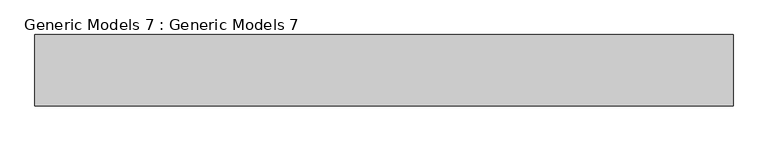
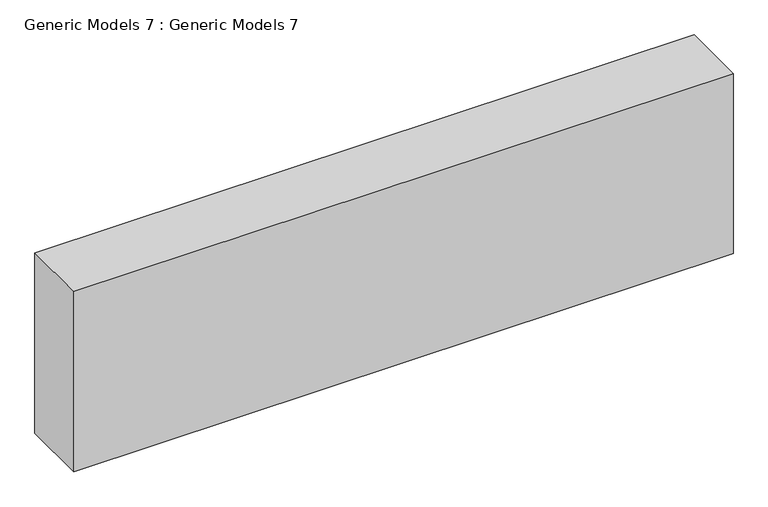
"""IFC4 building model written with IfcOpenShell, lengths in millimetres: proxy geometry, Generic Models 7 : Generic Models 7."""

import ifcopenshell
import ifcopenshell.guid

model = None  # the IFC model being written
_history = None  # IfcOwnerHistory: only IFC2X3 demands one
_inside = {}  # id of a spatial element -> (the spatial element, [elements in it])
_under = {}  # id of a project, library or spatial element -> (it, [spatial elements below it])
_declared = {}  # id of a project -> (the project, [libraries it declares])
_typed = {}  # id of a type object -> (the type object, [elements of that type])
_made_of = {}  # id of a material, layer set ... -> (it, [elements and type objects made of it])


def new_model(schema):
    """Start an empty IFC model of exactly this schema.

    Asked for "IFC4X3", IfcOpenShell would pick the latest addendum, in which some entities
    have other attributes; the version numbers below select the first issue.
    IFC2X3 requires an IfcOwnerHistory on every rooted entity: one is made here for all.
    """
    global model, _history
    if schema == "IFC4X3":
        model = ifcopenshell.file(schema_version=(4, 3, 0, 0))
    else:
        model = ifcopenshell.file(schema=schema)
    _inside.clear()
    _under.clear()
    _declared.clear()
    _typed.clear()
    _made_of.clear()
    _history = None
    if model.schema == "IFC2X3":
        org = make("IfcOrganization", Name="unknown")
        user = make(
            "IfcPersonAndOrganization",
            ThePerson=make("IfcPerson", FamilyName="unknown"),
            TheOrganization=org,
        )
        app = make(
            "IfcApplication",
            ApplicationDeveloper=org,
            Version="unknown",
            ApplicationFullName="unknown",
            ApplicationIdentifier="unknown",
        )
        _history = make(
            "IfcOwnerHistory",
            OwningUser=user,
            OwningApplication=app,
            ChangeAction="ADDED",
            CreationDate=0,
        )
    return model


def make(cls, **values):
    """One entity of the class cls with the attributes given. An attribute that is None is left unset."""
    return model.create_entity(
        cls, **{name: value for name, value in values.items() if value is not None}
    )


def rooted(cls, **values):
    """An entity with a GlobalId (a new one), such as an element, a storey or a relation."""
    return make(cls, GlobalId=ifcopenshell.guid.new(), OwnerHistory=_history, **values)


def si_unit(unit_type, name, prefix=None):
    """IfcSIUnit, for example si_unit("LENGTHUNIT", "METRE", prefix="MILLI")."""
    return make("IfcSIUnit", UnitType=unit_type, Prefix=prefix, Name=name)


def assignment(units):
    """IfcUnitAssignment: the units of a project."""
    return None if units is None else make("IfcUnitAssignment", Units=units)


def point(xyz):
    """IfcCartesianPoint."""
    return None if xyz is None else make("IfcCartesianPoint", Coordinates=xyz)


def direction(xyz):
    """IfcDirection."""
    return None if xyz is None else make("IfcDirection", DirectionRatios=xyz)


def frame(location, z_axis=None, x_axis=None):
    """IfcAxis2Placement3D, a coordinate frame: its origin and axes. An axis left out is left unset."""
    return make(
        "IfcAxis2Placement3D",
        Location=point(location),
        Axis=direction(z_axis),
        RefDirection=direction(x_axis),
    )


def origin():
    """The frame at (0, 0, 0) with its axes left unset."""
    return frame((0.0, 0.0, 0.0))


def place(relative_to, where):
    """IfcLocalPlacement: puts the frame where relative to a parent placement (None: the world)."""
    return make(
        "IfcLocalPlacement", PlacementRelTo=relative_to, RelativePlacement=where
    )


def context(
    kind, dimensions, precision=None, world=None, true_north=None, identifier=None
):
    """IfcGeometricRepresentationContext, for example the 3D "Model" context."""
    return make(
        "IfcGeometricRepresentationContext",
        ContextIdentifier=identifier,
        ContextType=kind,
        CoordinateSpaceDimension=dimensions,
        Precision=precision,
        WorldCoordinateSystem=world,
        TrueNorth=true_north,
    )


def project(units=None, contexts=None):
    """IfcProject with its units and contexts."""
    return rooted(
        "IfcProject",
        Name="project",
        RepresentationContexts=contexts,
        UnitsInContext=assignment(units),
    )


def spatial(cls, under=None, at=None, **own):
    """A site, building, storey or space (cls), placed at a placement, below another one or the project."""
    s = rooted(cls, ObjectPlacement=at, **own)
    if under is not None:
        _under.setdefault(under.id(), (under, []))[1].append(s)
    return s


def polyline(points):
    """IfcPolyline through the points."""
    return make("IfcPolyline", Points=[point(p) for p in points])


def outline(outer, holes=None, kind="AREA"):
    """IfcArbitraryClosedProfileDef: a profile drawn as a closed curve; with holes, ...WithVoids."""
    if holes is None:
        return make("IfcArbitraryClosedProfileDef", ProfileType=kind, OuterCurve=outer)
    return make(
        "IfcArbitraryProfileDefWithVoids",
        ProfileType=kind,
        OuterCurve=outer,
        InnerCurves=holes,
    )


def extrude(swept, where, along, depth):
    """IfcExtrudedAreaSolid: the profile swept, set in the frame where, extruded along a direction by depth."""
    return make(
        "IfcExtrudedAreaSolid",
        SweptArea=swept,
        Position=where,
        ExtrudedDirection=direction(along),
        Depth=depth,
    )


def shape(context_of_items, identifier, shape_type, items):
    """IfcShapeRepresentation: the items that make up one representation, for example the "Body"."""
    return make(
        "IfcShapeRepresentation",
        ContextOfItems=context_of_items,
        RepresentationIdentifier=identifier,
        RepresentationType=shape_type,
        Items=items,
    )


def source(mapping_origin, context_of_items, identifier, shape_type, items):
    """IfcRepresentationMap: a shape defined once, which mapped items show again and again."""
    return make(
        "IfcRepresentationMap",
        MappingOrigin=mapping_origin,
        MappedRepresentation=shape(context_of_items, identifier, shape_type, items),
    )


def transform(
    local_origin,
    x_axis=None,
    y_axis=None,
    z_axis=None,
    scale=None,
    scale2=None,
    scale3=None,
    uniform=True,
):
    """IfcCartesianTransformationOperator3D, or its non-uniform kind. x_axis, y_axis, z_axis: its Axis1, 2, 3."""
    if uniform:
        return make(
            "IfcCartesianTransformationOperator3D",
            Axis1=direction(x_axis),
            Axis2=direction(y_axis),
            LocalOrigin=point(local_origin),
            Scale=scale,
            Axis3=direction(z_axis),
        )
    return make(
        "IfcCartesianTransformationOperator3DnonUniform",
        Axis1=direction(x_axis),
        Axis2=direction(y_axis),
        LocalOrigin=point(local_origin),
        Scale=scale,
        Axis3=direction(z_axis),
        Scale2=scale2,
        Scale3=scale3,
    )


def mapped(mapping_source, mapping_target):
    """IfcMappedItem: shows the shape of a source again, moved by a transform."""
    return make(
        "IfcMappedItem", MappingSource=mapping_source, MappingTarget=mapping_target
    )


def made_of(thing, what):
    """Note that an element or type object is made of a material, layer set ...; save() writes the relation."""
    if what is not None:
        _made_of.setdefault(what.id(), (what, []))[1].append(thing)
    return thing


def element(
    cls,
    number,
    at=None,
    inside=None,
    cuts=None,
    type_object=None,
    material=None,
    context=None,
    identifier="Body",
    shape_type=None,
    held_by="IfcProductDefinitionShape",
    body=None,
    shapes=None,
    **own,
):
    """One element of the class cls, such as IfcWall. Its Tag is "e" and its number.

    at: its placement. inside: the storey or other place that contains it. cuts: it is an
    opening in that element (IfcRelVoidsElement). A single representation is given by context,
    identifier, shape_type and body (its items); several are given by shapes. held_by: the class
    of the entity that holds the representations. save() writes the other relations.
    """
    e = rooted(cls, Tag="e%d" % number, ObjectPlacement=at, **own)
    if body is not None:
        shapes = [shape(context, identifier, shape_type, body)]
    if shapes is not None:
        e.Representation = make(held_by, Representations=shapes)
    if inside is not None:
        _inside.setdefault(inside.id(), (inside, []))[1].append(e)
    if cuts is not None:
        rooted(
            "IfcRelVoidsElement", RelatingBuildingElement=cuts, RelatedOpeningElement=e
        )
    if type_object is not None:
        _typed.setdefault(type_object.id(), (type_object, []))[1].append(e)
    return made_of(e, material)


def aggregate(whole, parts):
    """IfcRelAggregates: a whole, such as a stair, and the parts it consists of."""
    return rooted("IfcRelAggregates", RelatingObject=whole, RelatedObjects=parts)


def save(model, path):
    """Write the relations noted so far, then the file.

    IfcRelAggregates (storeys below a building ...), IfcRelContainedInSpatialStructure (elements
    in a storey), IfcRelDefinesByType, IfcRelAssociatesMaterial and IfcRelDeclares: one each for
    every whole, place, type object, material and project.
    """
    for whole, parts in _under.values():
        aggregate(whole, parts)
    for where, things in _inside.values():
        rooted(
            "IfcRelContainedInSpatialStructure",
            RelatedElements=things,
            RelatingStructure=where,
        )
    for kind, things in _typed.values():
        rooted("IfcRelDefinesByType", RelatedObjects=things, RelatingType=kind)
    for what, things in _made_of.values():
        rooted("IfcRelAssociatesMaterial", RelatedObjects=things, RelatingMaterial=what)
    for by, libraries in _declared.values():
        rooted("IfcRelDeclares", RelatingContext=by, RelatedDefinitions=libraries)
    model.write(path)


def generic_models_7_generic_models_7_cedf5fbd(model_context):
    return source(origin(), model_context, "Body", "SweptSolid", [
        extrude(outline(polyline([(6210.3, 165.1), (4102.1, 165.1), (4102.1, 381.0), (6210.3, 381.0), (6210.3, 165.1)])), frame((0.0, 0.0, 3348.0), z_axis=(0.0, 0.0, 1.0), x_axis=(1.0, 0.0, 0.0)), (0.0, 0.0, 1.0), 609.6),
    ])


if __name__ == "__main__":
    model = new_model("IFC4")
    model_context = context("Model", 3, world=origin())
    ifc_project = project(units=[si_unit("LENGTHUNIT", "METRE", prefix="MILLI")], contexts=[model_context])
    site = spatial("IfcSite", under=ifc_project)
    building = spatial("IfcBuilding", under=site)
    placement = place(None, origin())
    generic_models_7_generic_models_7_shape = generic_models_7_generic_models_7_cedf5fbd(model_context)
    element("IfcBuildingElementProxy", 1, Name="Generic Models 7 : Generic Models 7", ObjectType="Generic Models 7 : Generic Models 7", at=placement, inside=building, context=model_context, shape_type="MappedRepresentation", body=[
        mapped(generic_models_7_generic_models_7_shape, transform((0.0, 0.0, 0.0), x_axis=(1.0, 0.0, 0.0), y_axis=(0.0, 1.0, 0.0), z_axis=(0.0, 0.0, 1.0))),
    ])
    save(model, "model.ifc")
